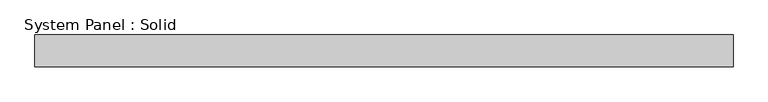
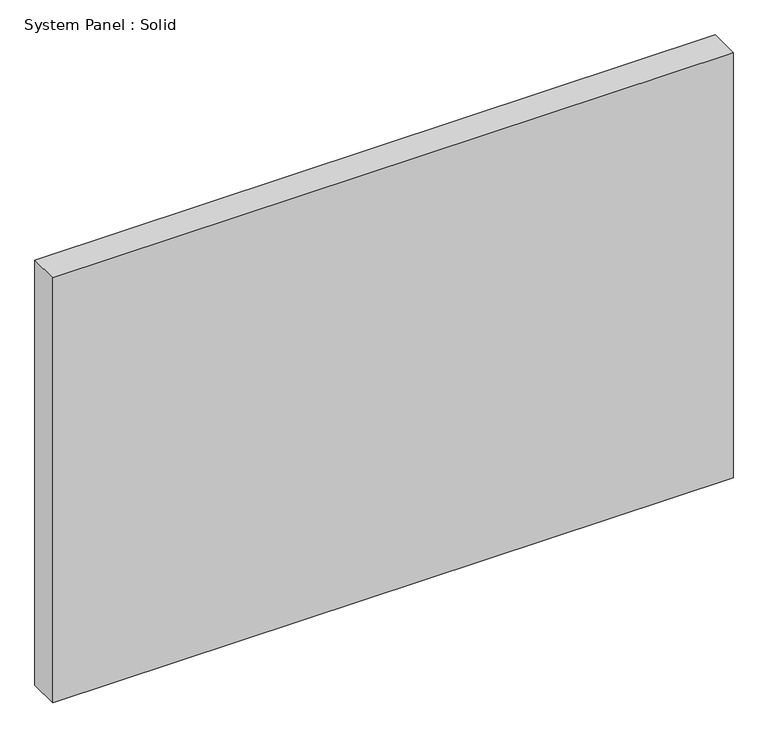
"""IFC4 building model written with IfcOpenShell, lengths in millimetres: plate geometry, System Panel : Solid."""

from ifc_helpers import new_model, si_unit, origin, origin_with_axes, place, context, project, spatial, polyline, outline, extrude, source, transform, mapped, element, save


def system_panel_solid_cf908f75(model_context):
    return source(origin(), model_context, "Body", "SweptSolid", [
        extrude(outline(polyline([(697.1738156, -19.05), (-697.1738156, -19.05), (-697.1738156, 44.45), (697.1738156, 44.45), (697.1738156, -19.05)])), origin_with_axes(), (0.0, 0.0, 1.0), 920.75),
    ])


if __name__ == "__main__":
    model = new_model("IFC4")
    model_context = context("Model", 3, world=origin())
    ifc_project = project(units=[si_unit("LENGTHUNIT", "METRE", prefix="MILLI")], contexts=[model_context])
    site = spatial("IfcSite", under=ifc_project)
    building = spatial("IfcBuilding", under=site)
    placement = place(None, origin())
    system_panel_solid_shape = system_panel_solid_cf908f75(model_context)
    element("IfcPlate", 1, ObjectType="System Panel : Solid", at=placement, inside=building, context=model_context, shape_type="MappedRepresentation", body=[
        mapped(system_panel_solid_shape, transform((0.0, 0.0, 0.0), x_axis=(1.0, 0.0, 0.0), y_axis=(0.0, 1.0, 0.0), z_axis=(0.0, 0.0, 1.0))),
    ])
    save(model, "model.ifc")
